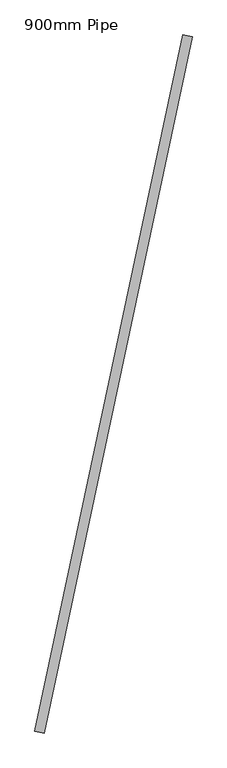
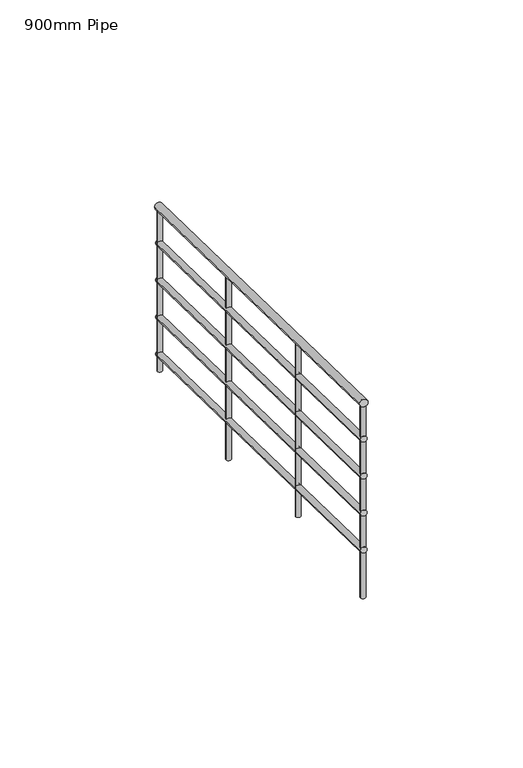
"""IFC4 building model written with IfcOpenShell, lengths in millimetres: railing geometry, 900mm Pipe."""

import ifcopenshell
import ifcopenshell.guid

model = None  # the IFC model being written
_history = None  # IfcOwnerHistory: only IFC2X3 demands one
_inside = {}  # id of a spatial element -> (the spatial element, [elements in it])
_under = {}  # id of a project, library or spatial element -> (it, [spatial elements below it])
_declared = {}  # id of a project -> (the project, [libraries it declares])
_typed = {}  # id of a type object -> (the type object, [elements of that type])
_made_of = {}  # id of a material, layer set ... -> (it, [elements and type objects made of it])


def new_model(schema):
    """Start an empty IFC model of exactly this schema.

    Asked for "IFC4X3", IfcOpenShell would pick the latest addendum, in which some entities
    have other attributes; the version numbers below select the first issue.
    IFC2X3 requires an IfcOwnerHistory on every rooted entity: one is made here for all.
    """
    global model, _history
    if schema == "IFC4X3":
        model = ifcopenshell.file(schema_version=(4, 3, 0, 0))
    else:
        model = ifcopenshell.file(schema=schema)
    _inside.clear()
    _under.clear()
    _declared.clear()
    _typed.clear()
    _made_of.clear()
    _history = None
    if model.schema == "IFC2X3":
        org = make("IfcOrganization", Name="unknown")
        user = make(
            "IfcPersonAndOrganization",
            ThePerson=make("IfcPerson", FamilyName="unknown"),
            TheOrganization=org,
        )
        app = make(
            "IfcApplication",
            ApplicationDeveloper=org,
            Version="unknown",
            ApplicationFullName="unknown",
            ApplicationIdentifier="unknown",
        )
        _history = make(
            "IfcOwnerHistory",
            OwningUser=user,
            OwningApplication=app,
            ChangeAction="ADDED",
            CreationDate=0,
        )
    return model


def make(cls, **values):
    """One entity of the class cls with the attributes given. An attribute that is None is left unset."""
    return model.create_entity(
        cls, **{name: value for name, value in values.items() if value is not None}
    )


def rooted(cls, **values):
    """An entity with a GlobalId (a new one), such as an element, a storey or a relation."""
    return make(cls, GlobalId=ifcopenshell.guid.new(), OwnerHistory=_history, **values)


def si_unit(unit_type, name, prefix=None):
    """IfcSIUnit, for example si_unit("LENGTHUNIT", "METRE", prefix="MILLI")."""
    return make("IfcSIUnit", UnitType=unit_type, Prefix=prefix, Name=name)


def assignment(units):
    """IfcUnitAssignment: the units of a project."""
    return None if units is None else make("IfcUnitAssignment", Units=units)


def point(xyz):
    """IfcCartesianPoint."""
    return None if xyz is None else make("IfcCartesianPoint", Coordinates=xyz)


def direction(xyz):
    """IfcDirection."""
    return None if xyz is None else make("IfcDirection", DirectionRatios=xyz)


def frame(location, z_axis=None, x_axis=None):
    """IfcAxis2Placement3D, a coordinate frame: its origin and axes. An axis left out is left unset."""
    return make(
        "IfcAxis2Placement3D",
        Location=point(location),
        Axis=direction(z_axis),
        RefDirection=direction(x_axis),
    )


def origin():
    """The frame at (0, 0, 0) with its axes left unset."""
    return frame((0.0, 0.0, 0.0))


def place(relative_to, where):
    """IfcLocalPlacement: puts the frame where relative to a parent placement (None: the world)."""
    return make(
        "IfcLocalPlacement", PlacementRelTo=relative_to, RelativePlacement=where
    )


def context(
    kind, dimensions, precision=None, world=None, true_north=None, identifier=None
):
    """IfcGeometricRepresentationContext, for example the 3D "Model" context."""
    return make(
        "IfcGeometricRepresentationContext",
        ContextIdentifier=identifier,
        ContextType=kind,
        CoordinateSpaceDimension=dimensions,
        Precision=precision,
        WorldCoordinateSystem=world,
        TrueNorth=true_north,
    )


def project(units=None, contexts=None):
    """IfcProject with its units and contexts."""
    return rooted(
        "IfcProject",
        Name="project",
        RepresentationContexts=contexts,
        UnitsInContext=assignment(units),
    )


def spatial(cls, under=None, at=None, **own):
    """A site, building, storey or space (cls), placed at a placement, below another one or the project."""
    s = rooted(cls, ObjectPlacement=at, **own)
    if under is not None:
        _under.setdefault(under.id(), (under, []))[1].append(s)
    return s


def circle_curve(where, radius):
    """IfcCircle in the frame where."""
    return make("IfcCircle", Position=where, Radius=radius)


def ellipse_curve(where, semi_axis1, semi_axis2):
    """IfcEllipse in the frame where."""
    return make(
        "IfcEllipse", Position=where, SemiAxis1=semi_axis1, SemiAxis2=semi_axis2
    )


def shape(context_of_items, identifier, shape_type, items):
    """IfcShapeRepresentation: the items that make up one representation, for example the "Body"."""
    return make(
        "IfcShapeRepresentation",
        ContextOfItems=context_of_items,
        RepresentationIdentifier=identifier,
        RepresentationType=shape_type,
        Items=items,
    )


def source(mapping_origin, context_of_items, identifier, shape_type, items):
    """IfcRepresentationMap: a shape defined once, which mapped items show again and again."""
    return make(
        "IfcRepresentationMap",
        MappingOrigin=mapping_origin,
        MappedRepresentation=shape(context_of_items, identifier, shape_type, items),
    )


def transform(
    local_origin,
    x_axis=None,
    y_axis=None,
    z_axis=None,
    scale=None,
    scale2=None,
    scale3=None,
    uniform=True,
):
    """IfcCartesianTransformationOperator3D, or its non-uniform kind. x_axis, y_axis, z_axis: its Axis1, 2, 3."""
    if uniform:
        return make(
            "IfcCartesianTransformationOperator3D",
            Axis1=direction(x_axis),
            Axis2=direction(y_axis),
            LocalOrigin=point(local_origin),
            Scale=scale,
            Axis3=direction(z_axis),
        )
    return make(
        "IfcCartesianTransformationOperator3DnonUniform",
        Axis1=direction(x_axis),
        Axis2=direction(y_axis),
        LocalOrigin=point(local_origin),
        Scale=scale,
        Axis3=direction(z_axis),
        Scale2=scale2,
        Scale3=scale3,
    )


def mapped(mapping_source, mapping_target):
    """IfcMappedItem: shows the shape of a source again, moved by a transform."""
    return make(
        "IfcMappedItem", MappingSource=mapping_source, MappingTarget=mapping_target
    )


def made_of(thing, what):
    """Note that an element or type object is made of a material, layer set ...; save() writes the relation."""
    if what is not None:
        _made_of.setdefault(what.id(), (what, []))[1].append(thing)
    return thing


def element(
    cls,
    number,
    at=None,
    inside=None,
    cuts=None,
    type_object=None,
    material=None,
    context=None,
    identifier="Body",
    shape_type=None,
    held_by="IfcProductDefinitionShape",
    body=None,
    shapes=None,
    **own,
):
    """One element of the class cls, such as IfcWall. Its Tag is "e" and its number.

    at: its placement. inside: the storey or other place that contains it. cuts: it is an
    opening in that element (IfcRelVoidsElement). A single representation is given by context,
    identifier, shape_type and body (its items); several are given by shapes. held_by: the class
    of the entity that holds the representations. save() writes the other relations.
    """
    e = rooted(cls, Tag="e%d" % number, ObjectPlacement=at, **own)
    if body is not None:
        shapes = [shape(context, identifier, shape_type, body)]
    if shapes is not None:
        e.Representation = make(held_by, Representations=shapes)
    if inside is not None:
        _inside.setdefault(inside.id(), (inside, []))[1].append(e)
    if cuts is not None:
        rooted(
            "IfcRelVoidsElement", RelatingBuildingElement=cuts, RelatedOpeningElement=e
        )
    if type_object is not None:
        _typed.setdefault(type_object.id(), (type_object, []))[1].append(e)
    return made_of(e, material)


def aggregate(whole, parts):
    """IfcRelAggregates: a whole, such as a stair, and the parts it consists of."""
    return rooted("IfcRelAggregates", RelatingObject=whole, RelatedObjects=parts)


def save(model, path):
    """Write the relations noted so far, then the file.

    IfcRelAggregates (storeys below a building ...), IfcRelContainedInSpatialStructure (elements
    in a storey), IfcRelDefinesByType, IfcRelAssociatesMaterial and IfcRelDeclares: one each for
    every whole, place, type object, material and project.
    """
    for whole, parts in _under.values():
        aggregate(whole, parts)
    for where, things in _inside.values():
        rooted(
            "IfcRelContainedInSpatialStructure",
            RelatedElements=things,
            RelatingStructure=where,
        )
    for kind, things in _typed.values():
        rooted("IfcRelDefinesByType", RelatedObjects=things, RelatingType=kind)
    for what, things in _made_of.values():
        rooted("IfcRelAssociatesMaterial", RelatedObjects=things, RelatingMaterial=what)
    for by, libraries in _declared.values():
        rooted("IfcRelDeclares", RelatingContext=by, RelatedDefinitions=libraries)
    model.write(path)


def plane_surface(at):
    """IfcPlane: the flat surface through the origin of the frame at, square to its z axis."""
    return make("IfcPlane", Position=at)


def cylinder_surface(at, radius):
    """IfcCylindricalSurface: all points at the distance radius from the z axis of the frame at."""
    return make("IfcCylindricalSurface", Position=at, Radius=radius)


def advanced_brep(points, edges, surfaces, faces):
    """IfcAdvancedBrep: a solid bounded by faces that lie on surfaces and meet in shared edges.

    An edge is (start, end): straight between two places in points (the first is 0);
    or (start, end, curve); or (start, end, curve, False) where it runs against its curve.
    A face is (place in surfaces, loops), or (place, loops, False) where it looks against
    its surface's normal. A loop lists edges by number (the first is 1), with a minus sign
    where the edge is run from its end to its start. The first loop is the outer one.
    """
    corners = [point(p) for p in points]
    vertices = [make("IfcVertexPoint", VertexGeometry=c) for c in corners]
    made = []
    for start, end, *more in edges:
        made.append(
            make(
                "IfcEdgeCurve",
                EdgeStart=vertices[start],
                EdgeEnd=vertices[end],
                EdgeGeometry=more[0] if more else make("IfcPolyline", Points=[corners[start], corners[end]]),
                SameSense=more[1] if len(more) > 1 else True,
            )
        )
    hull = []
    for where, loops, *sense in faces:
        bounds = []
        for j, loop in enumerate(loops):
            ring = [make("IfcOrientedEdge", EdgeElement=made[abs(k) - 1], Orientation=k > 0) for k in loop]
            bounds.append(
                make(
                    "IfcFaceOuterBound" if j == 0 else "IfcFaceBound",
                    Bound=make("IfcEdgeLoop", EdgeList=ring),
                    Orientation=True,
                )
            )
        hull.append(make("IfcAdvancedFace", Bounds=bounds, FaceSurface=surfaces[where], SameSense=sense[0] if sense else True))
    return make("IfcAdvancedBrep", Outer=make("IfcClosedShell", CfsFaces=hull))


def railing_900mm_pipe_6dc71ccd(model_context):
    return source(origin(), model_context, "Body", "AdvancedBrep", [
        advanced_brep(
        [(901790.4967023, 59699.7386587, 6058.386247), (901829.6201923, 59691.4108417, 6058.386247), (901177.9745476, 56822.1532951, 6954.8568352), (901217.0980375, 56813.8254781, 6954.8568352)],
        [
            (0, 1, ellipse_curve(frame((901810.0584473, 59695.5747502, 6058.386247), z_axis=(0.20819542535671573, 0.9780872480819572, 0.0), x_axis=(0.0, 0.0, -1.0)), 20.9078706, 20.0)),
            (1, 0, ellipse_curve(frame((901810.0584473, 59695.5747502, 6058.386247), z_axis=(0.20819542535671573, 0.9780872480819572, 0.0), x_axis=(0.0, 0.0, -1.0)), 20.9078706, 20.0)),
            (2, 3, ellipse_curve(frame((901197.5362925, 56817.9893866, 6954.8568352), z_axis=(-0.20819542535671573, -0.9780872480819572, 0.0), x_axis=(0.0, 0.0, -1.0)), 20.9078706, 20.0)),
            (3, 2, ellipse_curve(frame((901197.5362925, 56817.9893866, 6954.8568352), z_axis=(-0.20819542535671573, -0.9780872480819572, 0.0), x_axis=(0.0, 0.0, -1.0)), 20.9078706, 20.0)),
            (1, 3),
            (2, 0),
        ],
        [
            plane_surface(frame((901810.0584473, 59695.5747502, 6079.2941176), z_axis=(0.20819542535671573, 0.9780872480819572, 0.0), x_axis=(0.9780872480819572, -0.20819542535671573, 0.0))),
            plane_surface(frame((901197.5362925, 56817.9893866, 6975.7647059), z_axis=(-0.20819542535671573, -0.9780872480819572, 0.0), x_axis=(0.9780872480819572, -0.20819542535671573, 0.0))),
            cylinder_surface(frame((901808.84476, 59689.872934, 6060.1625663), z_axis=(0.19915507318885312, 0.9356163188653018, -0.2914778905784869), x_axis=(0.9780872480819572, -0.20819542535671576, 0.0)), 20.0),
        ],
        [
            (0, [[1, 2]]),
            (1, [[3, 4]]),
            (2, [[-2, 5, -3, 6]]),
            (2, [[-1, -6, -4, -5]]),
        ],
    ),
        advanced_brep(
        [(901795.3871386, 59698.6976816, 5863.6132147), (901824.729756, 59692.4518188, 5863.6132147), (901182.8649838, 56821.112318, 6760.0838029), (901212.2076012, 56814.8664552, 6760.0838029)],
        [
            (0, 1, ellipse_curve(frame((901810.0584473, 59695.5747502, 5863.6132147), z_axis=(0.20819542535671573, 0.9780872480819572, 0.0), x_axis=(0.0, 0.0, -1.0)), 15.680903, 15.0)),
            (1, 0, ellipse_curve(frame((901810.0584473, 59695.5747502, 5863.6132147), z_axis=(0.20819542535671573, 0.9780872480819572, 0.0), x_axis=(0.0, 0.0, -1.0)), 15.680903, 15.0)),
            (2, 3, ellipse_curve(frame((901197.5362925, 56817.9893866, 6760.0838029), z_axis=(-0.20819542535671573, -0.9780872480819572, 0.0), x_axis=(0.0, 0.0, -1.0)), 15.680903, 15.0)),
            (3, 2, ellipse_curve(frame((901197.5362925, 56817.9893866, 6760.0838029), z_axis=(-0.20819542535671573, -0.9780872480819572, 0.0), x_axis=(0.0, 0.0, -1.0)), 15.680903, 15.0)),
            (0, 2),
            (3, 1),
        ],
        [
            plane_surface(frame((901810.0584473, 59695.5747502, 5879.2941176), z_axis=(0.20819542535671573, 0.9780872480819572, 0.0), x_axis=(0.9780872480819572, -0.20819542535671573, 0.0))),
            plane_surface(frame((901197.5362925, 56817.9893866, 6775.7647059), z_axis=(-0.20819542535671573, -0.9780872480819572, 0.0), x_axis=(0.9780872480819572, -0.20819542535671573, 0.0))),
            cylinder_surface(frame((901809.1481819, 59691.2983881, 5864.9454542), z_axis=(0.19915507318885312, 0.9356163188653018, -0.2914778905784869), x_axis=(0.9780872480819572, -0.20819542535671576, 0.0)), 15.0),
        ],
        [
            (0, [[1, 2]]),
            (1, [[3, 4]]),
            (2, [[-1, 5, -4, 6]]),
            (2, [[-2, -6, -3, -5]]),
        ],
    ),
        advanced_brep(
        [(901795.3871386, 59698.6976816, 5663.6132147), (901824.729756, 59692.4518188, 5663.6132147), (901182.8649838, 56821.112318, 6560.0838029), (901212.2076012, 56814.8664552, 6560.0838029)],
        [
            (0, 1, ellipse_curve(frame((901810.0584473, 59695.5747502, 5663.6132147), z_axis=(0.20819542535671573, 0.9780872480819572, 0.0), x_axis=(0.0, 0.0, -1.0)), 15.680903, 15.0)),
            (1, 0, ellipse_curve(frame((901810.0584473, 59695.5747502, 5663.6132147), z_axis=(0.20819542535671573, 0.9780872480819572, 0.0), x_axis=(0.0, 0.0, -1.0)), 15.680903, 15.0)),
            (2, 3, ellipse_curve(frame((901197.5362925, 56817.9893866, 6560.0838029), z_axis=(-0.20819542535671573, -0.9780872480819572, 0.0), x_axis=(0.0, 0.0, -1.0)), 15.680903, 15.0)),
            (3, 2, ellipse_curve(frame((901197.5362925, 56817.9893866, 6560.0838029), z_axis=(-0.20819542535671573, -0.9780872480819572, 0.0), x_axis=(0.0, 0.0, -1.0)), 15.680903, 15.0)),
            (0, 2),
            (3, 1),
        ],
        [
            plane_surface(frame((901810.0584473, 59695.5747502, 5679.2941176), z_axis=(0.20819542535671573, 0.9780872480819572, 0.0), x_axis=(0.9780872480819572, -0.20819542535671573, 0.0))),
            plane_surface(frame((901197.5362925, 56817.9893866, 6575.7647059), z_axis=(-0.20819542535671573, -0.9780872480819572, 0.0), x_axis=(0.9780872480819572, -0.20819542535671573, 0.0))),
            cylinder_surface(frame((901809.1481819, 59691.2983881, 5664.9454542), z_axis=(0.19915507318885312, 0.9356163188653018, -0.2914778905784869), x_axis=(0.9780872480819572, -0.20819542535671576, 0.0)), 15.0),
        ],
        [
            (0, [[1, 2]]),
            (1, [[3, 4]]),
            (2, [[-1, 5, -4, 6]]),
            (2, [[-2, -6, -3, -5]]),
        ],
    ),
        advanced_brep(
        [(901795.3871386, 59698.6976816, 5463.6132147), (901824.729756, 59692.4518188, 5463.6132147), (901182.8649838, 56821.112318, 6360.0838029), (901212.2076012, 56814.8664552, 6360.0838029)],
        [
            (0, 1, ellipse_curve(frame((901810.0584473, 59695.5747502, 5463.6132147), z_axis=(0.20819542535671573, 0.9780872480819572, 0.0), x_axis=(0.0, 0.0, -1.0)), 15.680903, 15.0)),
            (1, 0, ellipse_curve(frame((901810.0584473, 59695.5747502, 5463.6132147), z_axis=(0.20819542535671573, 0.9780872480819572, 0.0), x_axis=(0.0, 0.0, -1.0)), 15.680903, 15.0)),
            (2, 3, ellipse_curve(frame((901197.5362925, 56817.9893866, 6360.0838029), z_axis=(-0.20819542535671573, -0.9780872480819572, 0.0), x_axis=(0.0, 0.0, -1.0)), 15.680903, 15.0)),
            (3, 2, ellipse_curve(frame((901197.5362925, 56817.9893866, 6360.0838029), z_axis=(-0.20819542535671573, -0.9780872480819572, 0.0), x_axis=(0.0, 0.0, -1.0)), 15.680903, 15.0)),
            (0, 2),
            (3, 1),
        ],
        [
            plane_surface(frame((901810.0584473, 59695.5747502, 5479.2941176), z_axis=(0.20819542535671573, 0.9780872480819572, 0.0), x_axis=(0.9780872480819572, -0.20819542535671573, 0.0))),
            plane_surface(frame((901197.5362925, 56817.9893866, 6375.7647059), z_axis=(-0.20819542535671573, -0.9780872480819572, 0.0), x_axis=(0.9780872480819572, -0.20819542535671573, 0.0))),
            cylinder_surface(frame((901809.1481819, 59691.2983881, 5464.9454542), z_axis=(0.19915507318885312, 0.9356163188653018, -0.2914778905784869), x_axis=(0.9780872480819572, -0.20819542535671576, 0.0)), 15.0),
        ],
        [
            (0, [[1, 2]]),
            (1, [[3, 4]]),
            (2, [[-1, 5, -4, 6]]),
            (2, [[-2, -6, -3, -5]]),
        ],
    ),
        advanced_brep(
        [(901795.3871386, 59698.6976816, 5263.6132147), (901824.729756, 59692.4518188, 5263.6132147), (901182.8649838, 56821.112318, 6160.0838029), (901212.2076012, 56814.8664552, 6160.0838029)],
        [
            (0, 1, ellipse_curve(frame((901810.0584473, 59695.5747502, 5263.6132147), z_axis=(0.20819542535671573, 0.9780872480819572, 0.0), x_axis=(0.0, 0.0, -1.0)), 15.680903, 15.0)),
            (1, 0, ellipse_curve(frame((901810.0584473, 59695.5747502, 5263.6132147), z_axis=(0.20819542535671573, 0.9780872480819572, 0.0), x_axis=(0.0, 0.0, -1.0)), 15.680903, 15.0)),
            (2, 3, ellipse_curve(frame((901197.5362925, 56817.9893866, 6160.0838029), z_axis=(-0.20819542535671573, -0.9780872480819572, 0.0), x_axis=(0.0, 0.0, -1.0)), 15.680903, 15.0)),
            (3, 2, ellipse_curve(frame((901197.5362925, 56817.9893866, 6160.0838029), z_axis=(-0.20819542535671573, -0.9780872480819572, 0.0), x_axis=(0.0, 0.0, -1.0)), 15.680903, 15.0)),
            (0, 2),
            (3, 1),
        ],
        [
            plane_surface(frame((901810.0584473, 59695.5747502, 5279.2941176), z_axis=(0.20819542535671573, 0.9780872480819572, 0.0), x_axis=(0.9780872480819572, -0.20819542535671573, 0.0))),
            plane_surface(frame((901197.5362925, 56817.9893866, 6175.7647059), z_axis=(-0.20819542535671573, -0.9780872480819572, 0.0), x_axis=(0.9780872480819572, -0.20819542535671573, 0.0))),
            cylinder_surface(frame((901809.1481819, 59691.2983881, 5264.9454542), z_axis=(0.19915507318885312, 0.9356163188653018, -0.2914778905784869), x_axis=(0.9780872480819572, -0.20819542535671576, 0.0)), 15.0),
        ],
        [
            (0, [[1, 2]]),
            (1, [[3, 4]]),
            (2, [[-1, 5, -4, 6]]),
            (2, [[-2, -6, -3, -5]]),
        ],
    ),
        advanced_brep(
        [(901405.8936872, 57736.7978112, 6646.8965794), (901381.441506, 57742.0026968, 6646.8965794), (901381.441506, 57742.0026968, 5717.1764706), (901405.8936872, 57736.7978112, 5717.1764706)],
        [
            (0, 1, ellipse_curve(frame((901393.6675966, 57739.400254, 6646.8965794), z_axis=(-0.06068436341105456, -0.2850908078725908, -0.9565775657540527), x_axis=(-0.19915507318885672, -0.9356163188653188, 0.29147789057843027)), 13.0674191, 12.5)),
            (1, 2),
            (2, 3, circle_curve(frame((901393.6675966, 57739.400254, 5717.1764706), z_axis=(0.0, 0.0, 1.0000000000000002), x_axis=(-0.9780872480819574, 0.20819542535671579, 0.0)), 12.5)),
            (3, 0),
            (3, 2, circle_curve(frame((901393.6675966, 57739.400254, 5717.1764706), z_axis=(0.0, 0.0, 1.0000000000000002), x_axis=(-0.9780872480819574, 0.20819542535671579, 0.0)), 12.5)),
            (1, 0, ellipse_curve(frame((901393.6675966, 57739.400254, 6646.8965794), z_axis=(-0.06068436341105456, -0.2850908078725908, -0.9565775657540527), x_axis=(-0.19915507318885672, -0.9356163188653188, 0.29147789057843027)), 13.0674191, 12.5)),
        ],
        [
            cylinder_surface(frame((901393.6675966, 57739.400254, 5617.1764706), z_axis=(0.0, 0.0, 1.0000000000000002), x_axis=(-0.9780872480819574, 0.20819542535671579, 0.0)), 12.5),
            plane_surface(frame((901364.0105298, 57720.1529584, 6654.5143069), z_axis=(0.06068436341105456, 0.2850908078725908, 0.9565775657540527), x_axis=(0.9780872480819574, -0.20819542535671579, 0.0))),
            plane_surface(frame((901374.420301, 57769.0573208, 5717.1764706), z_axis=(0.0, 0.0, -1.0000000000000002), x_axis=(0.9780872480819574, -0.20819542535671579, 0.0))),
        ],
        [
            (0, [[1, 2, 3, 4]]),
            (0, [[5, -2, 6, -4]]),
            (1, [[-6, -1]]),
            (2, [[-5, -3]]),
        ],
    ),
        advanced_brep(
        [(901614.0891126, 58714.8850593, 6342.1874779), (901589.6369314, 58720.0899449, 6342.1874779), (901589.6369314, 58720.0899449, 5358.5882353), (901614.0891126, 58714.8850593, 5358.5882353)],
        [
            (0, 1, ellipse_curve(frame((901601.863022, 58717.4875021, 6342.1874779), z_axis=(-0.060684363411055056, -0.2850908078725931, -0.956577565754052), x_axis=(-0.19915507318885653, -0.9356163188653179, 0.2914778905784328)), 13.0674191, 12.5)),
            (1, 2),
            (2, 3, circle_curve(frame((901601.863022, 58717.4875021, 5358.5882353), z_axis=(0.0, 0.0, 1.0000000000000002), x_axis=(-0.9780872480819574, 0.20819542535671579, 0.0)), 12.5)),
            (3, 0),
            (3, 2, circle_curve(frame((901601.863022, 58717.4875021, 5358.5882353), z_axis=(0.0, 0.0, 1.0000000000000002), x_axis=(-0.9780872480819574, 0.20819542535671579, 0.0)), 12.5)),
            (1, 0, ellipse_curve(frame((901601.863022, 58717.4875021, 6342.1874779), z_axis=(-0.060684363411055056, -0.2850908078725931, -0.956577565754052), x_axis=(-0.19915507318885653, -0.9356163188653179, 0.2914778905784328)), 13.0674191, 12.5)),
        ],
        [
            cylinder_surface(frame((901601.863022, 58717.4875021, 5258.5882353), z_axis=(0.0, 0.0, 1.0000000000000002), x_axis=(-0.9780872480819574, 0.20819542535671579, 0.0)), 12.5),
            plane_surface(frame((901572.2059551, 58698.2402065, 6349.8052054), z_axis=(0.060684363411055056, 0.2850908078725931, 0.956577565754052), x_axis=(0.9780872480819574, -0.20819542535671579, 0.0))),
            plane_surface(frame((901582.6157264, 58747.1445689, 5358.5882353), z_axis=(0.0, 0.0, -1.0000000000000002), x_axis=(0.9780872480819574, -0.20819542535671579, 0.0))),
        ],
        [
            (0, [[1, 2, 3, 4]]),
            (0, [[5, -2, 6, -4]]),
            (1, [[-6, -1]]),
            (2, [[-5, -3]]),
        ],
    ),
        advanced_brep(
        [(901212.3648259, 56827.6130344, 6930.1401008), (901187.9126447, 56832.81792, 6930.1401008), (901187.9126447, 56832.81792, 5896.4705882), (901212.3648259, 56827.6130344, 5896.4705882)],
        [
            (0, 1, ellipse_curve(frame((901200.1387353, 56830.2154772, 6930.1401008), z_axis=(-0.06068436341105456, -0.2850908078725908, -0.9565775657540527), x_axis=(-0.19915507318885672, -0.9356163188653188, 0.29147789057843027)), 13.0674191, 12.5)),
            (1, 2),
            (2, 3, circle_curve(frame((901200.1387353, 56830.2154772, 5896.4705882), z_axis=(0.0, 0.0, 1.0000000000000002), x_axis=(-0.9780872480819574, 0.20819542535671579, 0.0)), 12.5)),
            (3, 0),
            (3, 2, circle_curve(frame((901200.1387353, 56830.2154772, 5896.4705882), z_axis=(0.0, 0.0, 1.0000000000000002), x_axis=(-0.9780872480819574, 0.20819542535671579, 0.0)), 12.5)),
            (1, 0, ellipse_curve(frame((901200.1387353, 56830.2154772, 6930.1401008), z_axis=(-0.06068436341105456, -0.2850908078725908, -0.9565775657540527), x_axis=(-0.19915507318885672, -0.9356163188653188, 0.29147789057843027)), 13.0674191, 12.5)),
        ],
        [
            cylinder_surface(frame((901200.1387353, 56830.2154772, 5796.4705882), z_axis=(0.0, 0.0, 1.0000000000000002), x_axis=(-0.9780872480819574, 0.20819542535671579, 0.0)), 12.5),
            plane_surface(frame((901170.4816685, 56810.9681816, 6937.7578284), z_axis=(0.06068436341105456, 0.2850908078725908, 0.9565775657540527), x_axis=(0.9780872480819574, -0.20819542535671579, 0.0))),
            plane_surface(frame((901180.8914398, 56859.872544, 5896.4705882), z_axis=(0.0, 0.0, -1.0000000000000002), x_axis=(0.9780872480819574, -0.20819542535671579, 0.0))),
        ],
        [
            (0, [[1, 2, 3, 4]]),
            (0, [[5, -2, 6, -4]]),
            (1, [[-6, -1]]),
            (2, [[-5, -3]]),
        ],
    ),
        advanced_brep(
        [(901819.6820951, 59680.7462168, 6041.2872401), (901795.2299139, 59685.9511024, 6041.2872401), (901795.2299139, 59685.9511024, 5179.2941176), (901819.6820951, 59680.7462168, 5179.2941176)],
        [
            (0, 1, ellipse_curve(frame((901807.4560045, 59683.3486596, 6041.2872401), z_axis=(-0.060684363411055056, -0.2850908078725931, -0.956577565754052), x_axis=(-0.19915507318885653, -0.9356163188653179, 0.2914778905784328)), 13.0674191, 12.5)),
            (1, 2),
            (2, 3, circle_curve(frame((901807.4560045, 59683.3486596, 5179.2941176), z_axis=(0.0, 0.0, 1.0000000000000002), x_axis=(-0.9780872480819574, 0.20819542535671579, 0.0)), 12.5)),
            (3, 0),
            (3, 2, circle_curve(frame((901807.4560045, 59683.3486596, 5179.2941176), z_axis=(0.0, 0.0, 1.0000000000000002), x_axis=(-0.9780872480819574, 0.20819542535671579, 0.0)), 12.5)),
            (1, 0, ellipse_curve(frame((901807.4560045, 59683.3486596, 6041.2872401), z_axis=(-0.060684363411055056, -0.2850908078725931, -0.956577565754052), x_axis=(-0.19915507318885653, -0.9356163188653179, 0.2914778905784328)), 13.0674191, 12.5)),
        ],
        [
            cylinder_surface(frame((901807.4560045, 59683.3486596, 5079.2941176), z_axis=(0.0, 0.0, 1.0000000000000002), x_axis=(-0.9780872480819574, 0.20819542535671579, 0.0)), 12.5),
            plane_surface(frame((901777.7989377, 59664.101364, 6048.9049677), z_axis=(0.060684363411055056, 0.2850908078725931, 0.956577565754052), x_axis=(0.9780872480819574, -0.20819542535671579, 0.0))),
            plane_surface(frame((901788.2087089, 59713.0057264, 5179.2941176), z_axis=(0.0, 0.0, -1.0000000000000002), x_axis=(0.9780872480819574, -0.20819542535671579, 0.0))),
        ],
        [
            (0, [[1, 2, 3, 4]]),
            (0, [[5, -2, 6, -4]]),
            (1, [[-6, -1]]),
            (2, [[-5, -3]]),
        ],
    ),
    ])


if __name__ == "__main__":
    model = new_model("IFC4")
    model_context = context("Model", 3, world=origin())
    ifc_project = project(units=[si_unit("LENGTHUNIT", "METRE", prefix="MILLI")], contexts=[model_context])
    site = spatial("IfcSite", under=ifc_project)
    building = spatial("IfcBuilding", under=site)
    placement = place(None, origin())
    railing_900mm_pipe_shape = railing_900mm_pipe_6dc71ccd(model_context)
    element("IfcRailing", 1, ObjectType="900mm Pipe", at=placement, inside=building, context=model_context, shape_type="MappedRepresentation", body=[
        mapped(railing_900mm_pipe_shape, transform((0.0, 0.0, 0.0), x_axis=(1.0, 0.0, 0.0), y_axis=(0.0, 1.0, 0.0), z_axis=(0.0, 0.0, 1.0))),
    ])
    save(model, "model.ifc")
